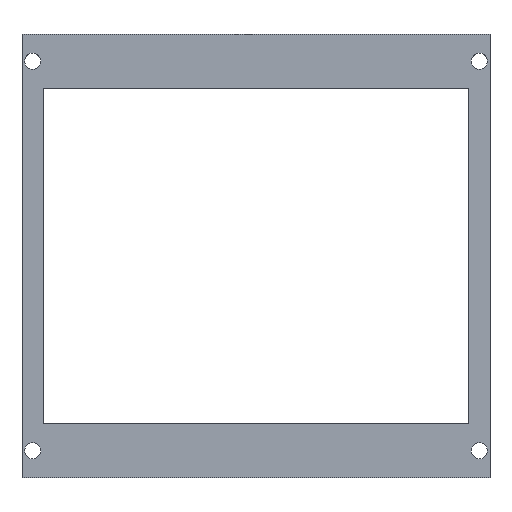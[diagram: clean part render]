
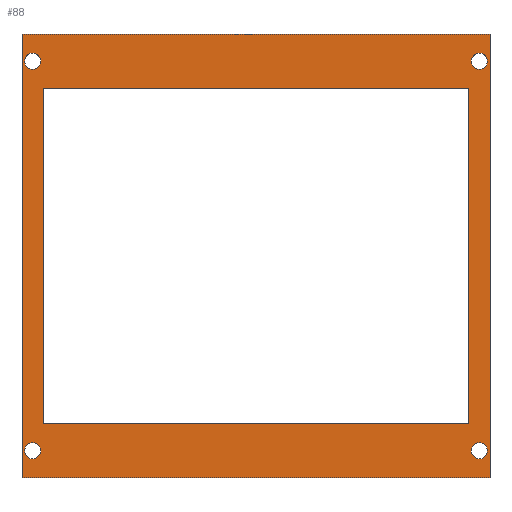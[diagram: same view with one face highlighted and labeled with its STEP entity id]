
A CAD part, top view. The second image highlights one B-rep face of the part: STEP entity #88.
In plain terms, the highlighted planar face has unit normal (0, 0, 1).
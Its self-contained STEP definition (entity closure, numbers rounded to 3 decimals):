
#24 = VERTEX_POINT('',#25);
#25 = CARTESIAN_POINT('',(0.,0.,2.4));
#31 = EDGE_CURVE('',#24,#32,#34,.T.);
#32 = VERTEX_POINT('',#33);
#33 = CARTESIAN_POINT('',(0.,66.,2.4));
#34 = LINE('',#35,#36);
#35 = CARTESIAN_POINT('',(0.,0.,2.4));
#36 = VECTOR('',#37,1.);
#37 = DIRECTION('',(-0.,1.,0.));
#70 = VERTEX_POINT('',#71);
#71 = CARTESIAN_POINT('',(69.664,0.,2.4));
#77 = EDGE_CURVE('',#24,#70,#78,.T.);
#78 = LINE('',#79,#80);
#79 = CARTESIAN_POINT('',(0.,0.,2.4));
#80 = VECTOR('',#81,1.);
#81 = DIRECTION('',(1.,0.,-0.));
#88 = ADVANCED_FACE('',(#89,#107,#118,#129,#140,#174),#185,.T.);
#89 = FACE_BOUND('',#90,.T.);
#90 = EDGE_LOOP('',(#91,#92,#93,#101));
#91 = ORIENTED_EDGE('',*,*,#31,.F.);
#92 = ORIENTED_EDGE('',*,*,#77,.T.);
#93 = ORIENTED_EDGE('',*,*,#94,.T.);
#94 = EDGE_CURVE('',#70,#95,#97,.T.);
#95 = VERTEX_POINT('',#96);
#96 = CARTESIAN_POINT('',(69.664,66.,2.4));
#97 = LINE('',#98,#99);
#98 = CARTESIAN_POINT('',(69.664,0.,2.4));
#99 = VECTOR('',#100,1.);
#100 = DIRECTION('',(-0.,1.,0.));
#101 = ORIENTED_EDGE('',*,*,#102,.F.);
#102 = EDGE_CURVE('',#32,#95,#103,.T.);
#103 = LINE('',#104,#105);
#104 = CARTESIAN_POINT('',(0.,66.,2.4));
#105 = VECTOR('',#106,1.);
#106 = DIRECTION('',(1.,0.,-0.));
#107 = FACE_BOUND('',#108,.T.);
#108 = EDGE_LOOP('',(#109));
#109 = ORIENTED_EDGE('',*,*,#110,.F.);
#110 = EDGE_CURVE('',#111,#111,#113,.T.);
#111 = VERTEX_POINT('',#112);
#112 = CARTESIAN_POINT('',(2.8,4.,2.4));
#113 = CIRCLE('',#114,1.2);
#114 = AXIS2_PLACEMENT_3D('',#115,#116,#117);
#115 = CARTESIAN_POINT('',(1.6,4.,2.4));
#116 = DIRECTION('',(0.,0.,1.));
#117 = DIRECTION('',(1.,0.,-0.));
#118 = FACE_BOUND('',#119,.T.);
#119 = EDGE_LOOP('',(#120));
#120 = ORIENTED_EDGE('',*,*,#121,.F.);
#121 = EDGE_CURVE('',#122,#122,#124,.T.);
#122 = VERTEX_POINT('',#123);
#123 = CARTESIAN_POINT('',(69.264,4.,2.4));
#124 = CIRCLE('',#125,1.2);
#125 = AXIS2_PLACEMENT_3D('',#126,#127,#128);
#126 = CARTESIAN_POINT('',(68.064,4.,2.4));
#127 = DIRECTION('',(0.,0.,1.));
#128 = DIRECTION('',(1.,0.,-0.));
#129 = FACE_BOUND('',#130,.T.);
#130 = EDGE_LOOP('',(#131));
#131 = ORIENTED_EDGE('',*,*,#132,.F.);
#132 = EDGE_CURVE('',#133,#133,#135,.T.);
#133 = VERTEX_POINT('',#134);
#134 = CARTESIAN_POINT('',(2.8,62.,2.4));
#135 = CIRCLE('',#136,1.2);
#136 = AXIS2_PLACEMENT_3D('',#137,#138,#139);
#137 = CARTESIAN_POINT('',(1.6,62.,2.4));
#138 = DIRECTION('',(0.,0.,1.));
#139 = DIRECTION('',(1.,0.,-0.));
#140 = FACE_BOUND('',#141,.T.);
#141 = EDGE_LOOP('',(#142,#152,#160,#168));
#142 = ORIENTED_EDGE('',*,*,#143,.T.);
#143 = EDGE_CURVE('',#144,#146,#148,.T.);
#144 = VERTEX_POINT('',#145);
#145 = CARTESIAN_POINT('',(3.2,8.,2.4));
#146 = VERTEX_POINT('',#147);
#147 = CARTESIAN_POINT('',(3.2,58.,2.4));
#148 = LINE('',#149,#150);
#149 = CARTESIAN_POINT('',(3.2,0.,2.4));
#150 = VECTOR('',#151,1.);
#151 = DIRECTION('',(-0.,1.,0.));
#152 = ORIENTED_EDGE('',*,*,#153,.T.);
#153 = EDGE_CURVE('',#146,#154,#156,.T.);
#154 = VERTEX_POINT('',#155);
#155 = CARTESIAN_POINT('',(66.464,58.,2.4));
#156 = LINE('',#157,#158);
#157 = CARTESIAN_POINT('',(0.,58.,2.4));
#158 = VECTOR('',#159,1.);
#159 = DIRECTION('',(1.,0.,-0.));
#160 = ORIENTED_EDGE('',*,*,#161,.F.);
#161 = EDGE_CURVE('',#162,#154,#164,.T.);
#162 = VERTEX_POINT('',#163);
#163 = CARTESIAN_POINT('',(66.464,8.,2.4));
#164 = LINE('',#165,#166);
#165 = CARTESIAN_POINT('',(66.464,0.,2.4));
#166 = VECTOR('',#167,1.);
#167 = DIRECTION('',(-0.,1.,0.));
#168 = ORIENTED_EDGE('',*,*,#169,.F.);
#169 = EDGE_CURVE('',#144,#162,#170,.T.);
#170 = LINE('',#171,#172);
#171 = CARTESIAN_POINT('',(0.,8.,2.4));
#172 = VECTOR('',#173,1.);
#173 = DIRECTION('',(1.,0.,-0.));
#174 = FACE_BOUND('',#175,.T.);
#175 = EDGE_LOOP('',(#176));
#176 = ORIENTED_EDGE('',*,*,#177,.F.);
#177 = EDGE_CURVE('',#178,#178,#180,.T.);
#178 = VERTEX_POINT('',#179);
#179 = CARTESIAN_POINT('',(69.264,62.,2.4));
#180 = CIRCLE('',#181,1.2);
#181 = AXIS2_PLACEMENT_3D('',#182,#183,#184);
#182 = CARTESIAN_POINT('',(68.064,62.,2.4));
#183 = DIRECTION('',(0.,0.,1.));
#184 = DIRECTION('',(1.,0.,-0.));
#185 = PLANE('',#186);
#186 = AXIS2_PLACEMENT_3D('',#187,#188,#189);
#187 = CARTESIAN_POINT('',(34.832,33.,2.4));
#188 = DIRECTION('',(0.,0.,1.));
#189 = DIRECTION('',(1.,0.,-0.));
